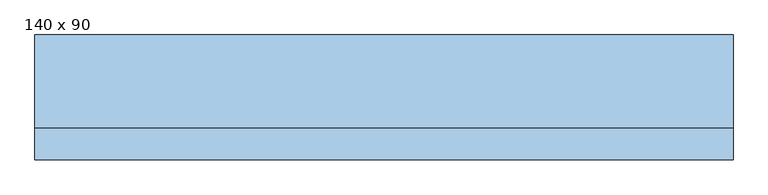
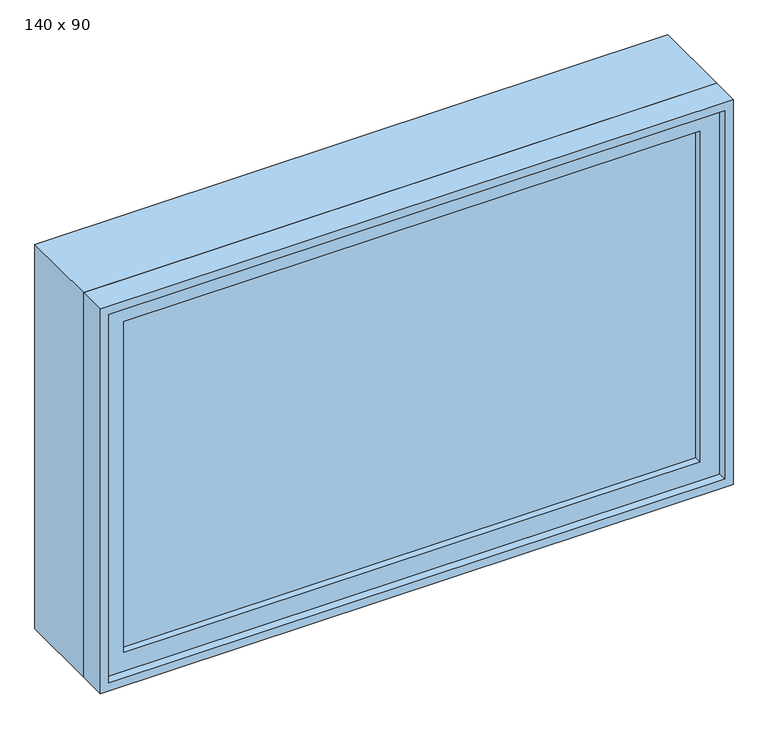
"""IFC4 building model written with IfcOpenShell, lengths in millimetres: window geometry, M_Fixado : 140 x 90."""

from ifc_helpers import new_model, si_unit, frame, origin, place, context, project, spatial, polyline, outline, extrude, source, transform, mapped, element, save


def window_140_x_90_5d7f9c6b(model_context):
    return source(origin(), model_context, "Body", "SweptSolid", [
        extrude(outline(polyline([(-637.0, -103.0), (-637.0, -91.0), (637.0, -91.0), (637.0, -103.0), (-637.0, -103.0)])), frame((0.0, 0.0, 978.0), z_axis=(0.0, 0.0, 1.0), x_axis=(1.0, 0.0, 0.0)), (0.0, 0.0, 1.0), 774.0),
        extrude(outline(polyline([(1796.0, -681.0), (934.0, -681.0), (934.0, 681.0), (1796.0, 681.0), (1796.0, -681.0)]), holes=[polyline([(1752.0, -637.0), (1752.0, 637.0), (978.0, 637.0), (978.0, -637.0), (1752.0, -637.0)])]), frame((0.0, -119.0, 0.0), z_axis=(0.0, 1.0, 0.0), x_axis=(0.0, 0.0, 1.0)), (0.0, 0.0, 1.0), 44.0),
        extrude(outline(polyline([(1815.0, -700.0), (915.0, -700.0), (915.0, 700.0), (1815.0, 700.0), (1815.0, -700.0)]), holes=[polyline([(1796.0, -681.0), (1796.0, 681.0), (934.0, 681.0), (934.0, -681.0), (1796.0, -681.0)])]), frame((0.0, -138.0, 0.0), z_axis=(0.0, 1.0, 0.0), x_axis=(0.0, 0.0, 1.0)), (0.0, 0.0, 1.0), 63.0),
        extrude(outline(polyline([(1815.0, -700.0), (915.0, -700.0), (915.0, 700.0), (1815.0, 700.0), (1815.0, -700.0)]), holes=[polyline([(1783.0, -668.0), (1783.0, 668.0), (947.0, 668.0), (947.0, -668.0), (1783.0, -668.0)])]), frame((0.0, -75.0, 0.0), z_axis=(0.0, 1.0, 0.0), x_axis=(0.0, 0.0, 1.0)), (0.0, 0.0, 1.0), 187.0),
    ])


if __name__ == "__main__":
    model = new_model("IFC4")
    model_context = context("Model", 3, world=origin())
    ifc_project = project(units=[si_unit("LENGTHUNIT", "METRE", prefix="MILLI")], contexts=[model_context])
    site = spatial("IfcSite", under=ifc_project)
    building = spatial("IfcBuilding", under=site)
    placement = place(None, origin())
    window_140_x_90_shape = window_140_x_90_5d7f9c6b(model_context)
    element("IfcWindow", 1, ObjectType="M_Fixado : 140 x 90", at=placement, inside=building, context=model_context, shape_type="MappedRepresentation", body=[
        mapped(window_140_x_90_shape, transform((0.0, 0.0, 0.0), x_axis=(1.0, 0.0, 0.0), y_axis=(0.0, 1.0, 0.0), z_axis=(0.0, 0.0, 1.0))),
    ])
    save(model, "model.ifc")
